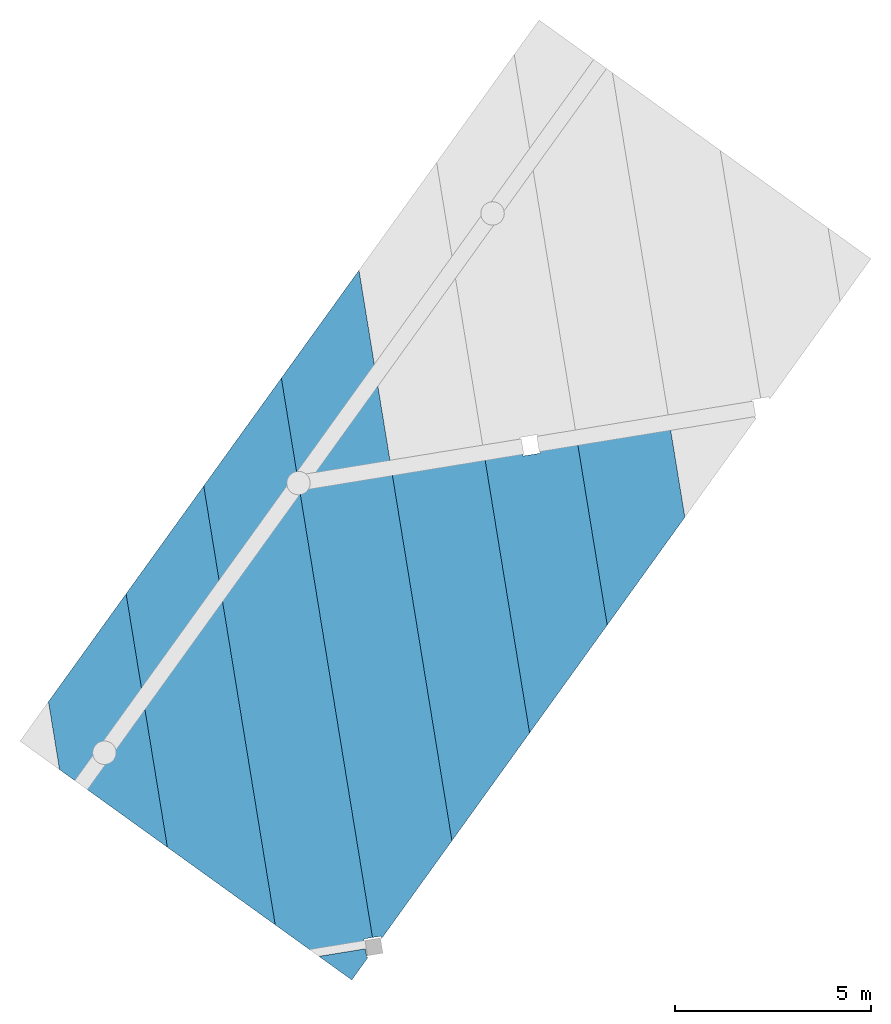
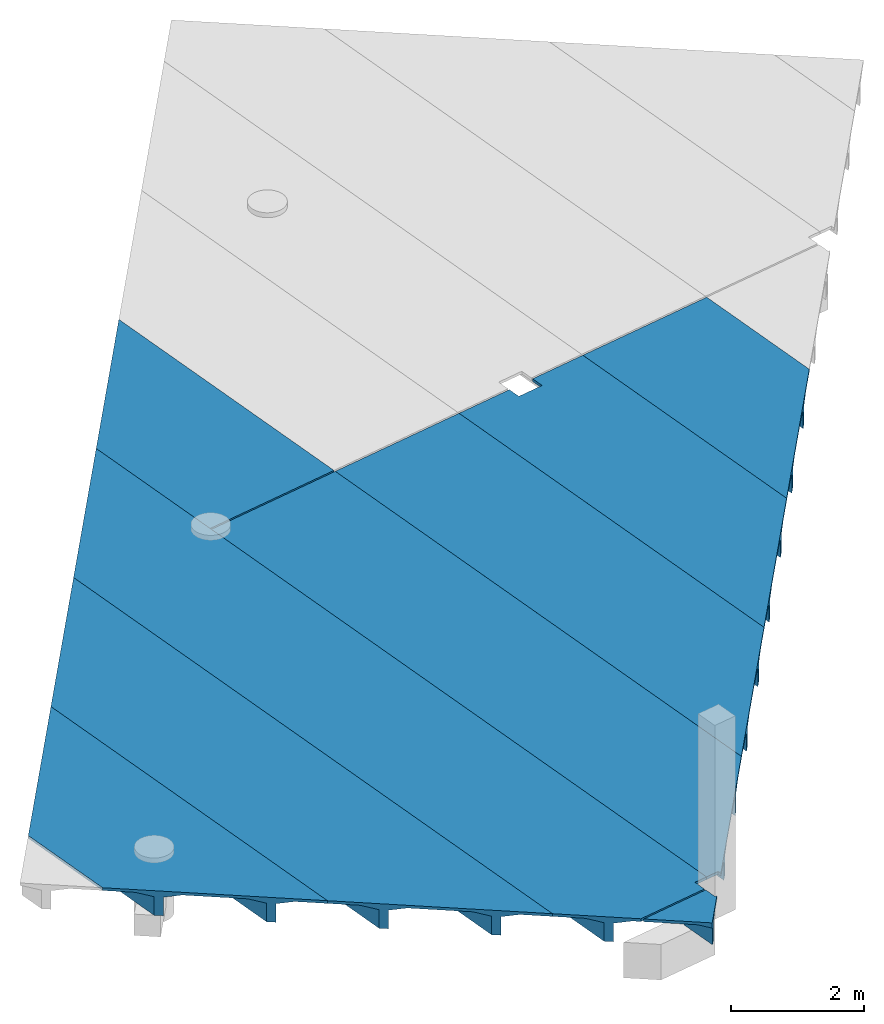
# One storey, part 2 of 3: 9 beams.
"""IFC2X3 building model written with IfcOpenShell, lengths in millimetres."""

from ifc_helpers import new_model, entity, si_unit, converted_unit, derived_unit, direction, frame, origin, origin_with_axes, place, context, subcontext, project, spatial, faceted_brep, type_object, element, save


model = new_model("IFC2X3")

# Units and contexts
model_context = context("Model", 3, precision=0.01, world=origin(), true_north=direction((6.12323399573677e-17, 1.0)))
plan_context = context("Plan", 3, precision=1e-05, world=origin_with_axes())
body_context = subcontext(model_context, "Body", "Model", "MODEL_VIEW")
ifc_project = project(units=[converted_unit("PLANEANGLEUNIT", "DEGREE", entity("IfcPositiveLengthMeasure", 0.0174532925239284), si_unit("PLANEANGLEUNIT", "RADIAN"), dimensions=[0, 0, 0, 0, 0, 0, 0]), si_unit("AREAUNIT", "SQUARE_METRE"), si_unit("LENGTHUNIT", "METRE", prefix="MILLI"), si_unit("MASSUNIT", "GRAM", prefix="KILO"), si_unit("POWERUNIT", "WATT"), si_unit("PRESSUREUNIT", "PASCAL", prefix="KILO"), si_unit("FORCEUNIT", "NEWTON", prefix="KILO"), si_unit("ELECTRICVOLTAGEUNIT", "VOLT"), si_unit("ELECTRICCURRENTUNIT", "AMPERE"), si_unit("THERMODYNAMICTEMPERATUREUNIT", "DEGREE_CELSIUS"), si_unit("TIMEUNIT", "SECOND"), si_unit("VOLUMEUNIT", "CUBIC_METRE"), derived_unit("LINEARVELOCITYUNIT", [(si_unit("LENGTHUNIT", "METRE"), 1), (si_unit("TIMEUNIT", "SECOND"), -1)]), derived_unit("VOLUMETRICFLOWRATEUNIT", [(si_unit("VOLUMEUNIT", "CUBIC_METRE"), 1), (si_unit("TIMEUNIT", "SECOND"), -1)]), derived_unit("THERMALTRANSMITTANCEUNIT", [(si_unit("POWERUNIT", "WATT"), 1), (si_unit("THERMODYNAMICTEMPERATUREUNIT", "KELVIN"), -1), (si_unit("AREAUNIT", "SQUARE_METRE"), -1)]), derived_unit("SOUNDPRESSUREUNIT", [(si_unit("PRESSUREUNIT", "PASCAL"), 1)])], contexts=[model_context, plan_context])

# Site, building, storey
site_placement = place(None, frame((5.09380697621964e-08, 5.80416781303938e-08, 0.0), z_axis=(0.0, 0.0, 1.0), x_axis=(-0.160806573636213, 0.986985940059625, 0.0)))
site = spatial("IfcSite", under=ifc_project, at=site_placement, Name="Default", CompositionType="ELEMENT")
building_placement = place(site_placement, frame((0.0, 0.0, 0.0), z_axis=(0.0, 0.0, 1.0), x_axis=(1.0, -2.77555756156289e-17, 0.0)))
building = spatial("IfcBuilding", under=site, at=building_placement, CompositionType="ELEMENT")
storey_placement = place(building_placement, frame((0.0, 0.0, 51360.0000000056), z_axis=(0.0, 0.0, 1.0), x_axis=(1.0, -2.77555756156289e-17, 0.0)))
storey = spatial("IfcBuildingStorey", under=building, at=storey_placement, Name="H01-Nivå D+0,36", CompositionType="ELEMENT", Elevation=51360.0000000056)

# Beams
beam_type = type_object("IfcBeamType", Name="DT450*2400-100-50-1200-0-200-0.3", PredefinedType="NOTDEFINED")
beam_1_placement = place(storey_placement, frame((1004653.34348859, -344780.275321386, 3529.99999999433), z_axis=(0.0, 0.0, 1.0), x_axis=(1.0, -2.77555756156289e-17, 0.0)))
element("IfcBeam", 1, at=beam_1_placement, inside=storey, type_object=beam_type, Name="DT", ObjectType="DT450*2400-100-50-1200-0-200-0.3", context=body_context, shape_type="Brep", body=[
    faceted_brep([(5102.32730285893, 0.0262667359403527, 450.0), (5102.32730285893, 0.0262667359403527, 400.0), (0.0123552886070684, 0.0, 400.0), (0.0123552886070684, 0.0, 450.0), (4752.33055990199, 350.024464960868, 400.0), (0.0105534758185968, 350.0, 400.0), (4552.33158949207, 550.023435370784, 340.0), (0.00952386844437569, 550.0, 340.0), (4552.33013426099, 550.023435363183, 0.0), (0.00952386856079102, 550.0, 0.0), (4452.332104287, 650.022920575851, 0.0), (0.00900906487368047, 650.0, 0.0), (4452.33064906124, 650.02292056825, 340.0), (0.00900906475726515, 650.0, 340.0), (4252.33313387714, 850.021890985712, 400.0), (0.00797945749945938, 850.0, 400.0), (3552.3367374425, 1550.01828742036, 400.0), (0.00437583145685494, 1550.0, 400.0), (3352.33776703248, 1750.01725783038, 340.0), (0.00334622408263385, 1750.0, 340.0), (3352.33631186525, 1750.01725782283, 0.0), (0.00334622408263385, 1750.0, 0.0), (3252.33828182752, 1850.01674303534, 0.0), (0.00283142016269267, 1850.0, 0.0), (3252.33682666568, 1850.01674302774, 340.0), (0.00283142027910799, 1850.0, 340.0), (3052.33931141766, 2050.01571344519, 400.0), (0.0018018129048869, 2050.0, 400.0), (2702.34111320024, 2400.01391166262, 400.0), (0.0, 2400.0, 400.0), (2702.33965806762, 2400.01391165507, 450.0), (0.0, 2400.0, 450.0), (2702.34111320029, 2400.01391166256, 450.0), (3252.33828182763, 1850.01674303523, 340.0), (3352.33776703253, 1750.01725783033, 0.0), (4452.33210428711, 650.022920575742, 340.0), (4552.33158949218, 550.023435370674, 0.0), (5102.32875811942, 0.026266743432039, 400.0), (5102.32875811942, 0.026266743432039, 450.0)], [[[0, 1, 2, 3]], [[1, 4, 5, 2]], [[4, 6, 7, 5]], [[6, 8, 9, 7]], [[8, 10, 11, 9]], [[10, 12, 13, 11]], [[12, 14, 15, 13]], [[14, 16, 17, 15]], [[16, 18, 19, 17]], [[18, 20, 21, 19]], [[20, 22, 23, 21]], [[22, 24, 25, 23]], [[24, 26, 27, 25]], [[26, 28, 29, 27]], [[28, 30, 31, 29]], [[30, 0, 3, 31]], [[2, 5, 7, 9, 11, 13, 15, 17, 19, 21, 23, 25, 27, 29, 31, 3]], [[32, 28, 26, 33, 22, 34, 18, 16, 14, 35, 10, 36, 6, 4, 37, 38]]], orient=[[False], [False], [False], [False], [False], [False], [False], [False], [False], [False], [False], [False], [False], [False], [False], [False], [False], [False]]),
])
beam_2_placement = place(storey_placement, frame((992653.322275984, -339980.328350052, 3529.99999999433), z_axis=(0.0, 0.0, 1.0), x_axis=(1.0, -2.77555756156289e-17, 0.0)))
element("IfcBeam", 2, at=beam_2_placement, inside=storey, type_object=beam_type, Name="DT", ObjectType="DT450*2400-100-50-1200-0-200-0.3", context=body_context, shape_type="Brep", body=[
    faceted_brep([(942.550068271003, 0.00485218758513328, 400.0), (942.550068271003, 0.00485218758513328, 450.0), (12302.3644785, 0.063332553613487, 450.0), (12302.3644785, 0.063332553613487, 400.0), (1292.49193433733, 350.006653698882, 400.0), (11952.367735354, 350.061530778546, 400.0), (1492.49296394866, 550.007683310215, 340.0), (11752.3687649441, 550.060501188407, 340.0), (1492.54723686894, 550.007683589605, 0.0), (11752.367309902, 550.060501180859, 0.0), (1592.49347875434, 650.008198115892, 0.0), (11652.3692797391, 650.059986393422, 0.0), (1592.54672206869, 650.008198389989, 340.0), (11652.3678247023, 650.059986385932, 340.0), (1792.49450836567, 850.009227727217, 400.0), (11452.3703093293, 850.058956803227, 400.0), (2492.4981120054, 1550.01283136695, 400.0), (10752.3739128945, 1550.05535323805, 400.0), (2692.49914161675, 1750.0138609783, 340.0), (10552.3749424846, 1750.05432364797, 340.0), (2692.54105926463, 1750.0138611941, 0.0), (10552.3734875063, 1750.05432364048, 0.0), (2792.49965642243, 1850.01437578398, 0.0), (10452.3754572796, 1850.05380885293, 0.0), (2792.5405444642, 1850.01437599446, 340.0), (10452.3740023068, 1850.05380884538, 340.0), (2992.50068603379, 2050.01540539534, 400.0), (10252.3764868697, 2050.05277926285, 400.0), (3342.50248785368, 2400.01720721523, 400.0), (9902.3782886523, 2400.05097748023, 400.0), (3342.53771306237, 2400.01720739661, 450.0), (9902.37683370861, 2400.05097747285, 450.0), (9902.37828865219, 2400.05097748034, 450.0), (10452.3754572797, 1850.05380885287, 340.0), (10552.3749424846, 1750.05432364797, 0.0), (11652.3692797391, 650.059986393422, 340.0), (11752.3687649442, 550.06050118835, 0.0), (12302.3659335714, 0.0633325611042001, 400.0), (12302.3659335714, 0.0633325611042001, 450.0), (1492.49296394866, 550.007683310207, 0.0), (1592.49347875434, 650.008198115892, 340.0), (2692.49914161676, 1750.0138609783, 0.0), (2792.49965642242, 1850.01437578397, 340.0), (3342.50248785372, 2400.01720721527, 450.0), (942.490132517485, 0.0048518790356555, 450.0), (942.490132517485, 0.0048518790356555, 400.0)], [[[0, 1, 2, 3]], [[4, 0, 3, 5]], [[6, 4, 5, 7]], [[8, 6, 7, 9]], [[10, 8, 9, 11]], [[12, 10, 11, 13]], [[14, 12, 13, 15]], [[16, 14, 15, 17]], [[18, 16, 17, 19]], [[20, 18, 19, 21]], [[22, 20, 21, 23]], [[24, 22, 23, 25]], [[26, 24, 25, 27]], [[28, 26, 27, 29]], [[30, 28, 29, 31]], [[1, 30, 31, 2]], [[32, 29, 27, 33, 23, 34, 19, 17, 15, 35, 11, 36, 7, 5, 37, 38]], [[4, 6, 39, 10, 40, 14, 16, 18, 41, 22, 42, 26, 28, 43, 44, 45]]], orient=[[False], [False], [False], [False], [False], [False], [False], [False], [False], [False], [False], [False], [False], [False], [False], [False], [False], [False]]),
])
beam_3_placement = place(storey_placement, frame((992653.332881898, -342380.327191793, 3529.99999999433), z_axis=(0.0, 0.0, 1.0), x_axis=(1.0, -2.77555756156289e-17, 0.0)))
element("IfcBeam", 3, at=beam_3_placement, inside=storey, type_object=beam_type, Name="DT", ObjectType="DT450*2400-100-50-1200-0-200-0.3", context=body_context, shape_type="Brep", body=[
    faceted_brep([(225.011272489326, 225.000014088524, 400.0), (0.011196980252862, 224.99885579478, 400.0), (0.011196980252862, 224.99885579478, 450.0), (225.011272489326, 225.000014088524, 450.0), (225.012430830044, 0.0, 450.0), (225.012430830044, 0.0, 400.0), (14352.3447960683, 350.072727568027, 400.0), (14152.3458039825, 550.071697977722, 340.0), (0.00952386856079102, 549.998841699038, 340.0), (0.0105534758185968, 349.998841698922, 400.0), (14702.3429726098, 0.074529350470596, 400.0), (14152.3443488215, 550.071697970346, 0.0), (0.00952386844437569, 549.998841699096, 0.0), (14052.3463187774, 650.071183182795, 0.0), (0.00900906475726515, 649.998841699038, 0.0), (14052.3448636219, 650.071183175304, 340.0), (0.00900906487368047, 649.998841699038, 340.0), (13852.3473483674, 850.07015359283, 400.0), (0.00797945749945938, 849.998841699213, 400.0), (92.4751507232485, 1549.99931773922, 400.0), (0.00485187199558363, 1457.52854284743, 400.0), (13152.3509519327, 1550.06655002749, 400.0), (292.476180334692, 1750.00034735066, 340.0), (12952.3519815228, 1750.06552043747, 340.0), (292.542808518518, 1750.00034769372, 0.0), (12952.3505264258, 1750.06552043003, 0.0), (392.476695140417, 1850.00086215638, 0.0), (12852.3524963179, 1850.06500564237, 0.0), (392.542293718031, 1850.00086249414, 340.0), (12852.3510412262, 1850.06500563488, 340.0), (592.477724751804, 2050.00189176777, 400.0), (12652.3535259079, 2050.06397605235, 400.0), (942.479526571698, 2400.00369358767, 400.0), (12302.3553276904, 2400.06217426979, 400.0), (942.539462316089, 2400.00369389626, 450.0), (12302.3538726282, 2400.06217426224, 450.0), (14702.4175019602, 0.0745297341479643, 450.0), (0.00485183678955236, 1457.53536399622, 450.0), (14702.3429726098, 0.074529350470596, 450.0), (12302.3553276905, 2400.06217426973, 450.0), (12852.3524963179, 1850.06500564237, 340.0), (12952.3519815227, 1750.06552043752, 0.0), (14052.3463187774, 650.071183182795, 340.0), (14152.3458039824, 550.071697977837, 0.0), (14352.3447743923, 350.072727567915, 400.0), (292.476180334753, 1750.00034735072, 0.0), (392.476695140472, 1850.00086215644, 340.0), (942.479526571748, 2400.00369358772, 450.0), (0.00485186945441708, 1457.52901888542, 450.0), (0.00485186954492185, 1457.52901888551, 400.0)], [[[0, 1, 2, 3]], [[0, 3, 4, 5]], [[6, 7, 8, 9]], [[10, 6, 9, 1, 0, 5]], [[7, 11, 12, 8]], [[11, 13, 14, 12]], [[13, 15, 16, 14]], [[15, 17, 18, 16]], [[19, 20, 18, 17, 21]], [[22, 19, 21, 23]], [[24, 22, 23, 25]], [[26, 24, 25, 27]], [[28, 26, 27, 29]], [[30, 28, 29, 31]], [[32, 30, 31, 33]], [[34, 32, 33, 35]], [[36, 10, 5, 4]], [[20, 37, 2, 1, 9, 8, 12, 14, 16, 18]], [[37, 34, 35, 36, 4, 3, 2]], [[10, 38, 39, 33, 31, 40, 27, 41, 23, 21, 17, 42, 13, 43, 7, 44]], [[22, 45, 26, 46, 30, 32, 47, 48, 49, 19]]], orient=[[False], [False], [False], [False], [False], [False], [False], [False], [False], [False], [False], [False], [False], [False], [False], [False], [False], [False], [False], [False], [False]]),
])
beam_4_placement = place(storey_placement, frame((992653.311670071, -337580.328350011, 3529.99999999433), z_axis=(0.0, 0.0, 1.0), x_axis=(1.0, -2.77555756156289e-17, 0.0)))
element("IfcBeam", 4, at=beam_4_placement, inside=storey, type_object=beam_type, Name="DT", ObjectType="DT450*2400-100-50-1200-0-200-0.3", context=body_context, shape_type="Brep", body=[
    faceted_brep([(3692.51489561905, 350.019009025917, 400.0), (3342.5143043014, 0.0172072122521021, 400.0), (9902.38894453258, 0.0509774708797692, 400.0), (9552.39069631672, 350.049175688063, 400.0), (3892.51592523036, 550.020038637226, 340.0), (9352.39172590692, 550.048146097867, 340.0), (3892.54548761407, 550.020038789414, 0.0), (9352.39027098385, 550.048146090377, 0.0), (3992.51644003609, 650.020553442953, 0.0), (9252.39224070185, 650.047631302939, 0.0), (3992.54497281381, 650.02055358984, 340.0), (9252.39078578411, 650.047631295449, 340.0), (4192.51746964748, 850.021583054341, 400.0), (9052.39327029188, 850.046601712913, 400.0), (8352.39687385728, 1550.04299814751, 400.0), (4892.52107328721, 1550.02518669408, 400.0), (5092.52210289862, 1750.02621630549, 340.0), (8152.3979034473, 1750.04196855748, 340.0), (5092.53931000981, 1750.02621639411, 0.0), (8152.39644858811, 1750.04196855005, 0.0), (5192.52261770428, 1850.02673111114, 0.0), (8052.3984182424, 1850.04145376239, 0.0), (5192.53879520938, 1850.02673119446, 340.0), (8052.39696338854, 1850.04145375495, 340.0), (5392.52364731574, 2050.0277607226, 400.0), (7852.39944783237, 2050.04042417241, 400.0), (5742.52544913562, 2400.02956254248, 400.0), (7502.4012496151, 2400.03862238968, 400.0), (5742.53596380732, 2400.02956259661, 450.0), (7502.3997947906, 2400.0386223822, 450.0), (3342.54831901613, 0.0172073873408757, 450.0), (9902.3874395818, 0.0509774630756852, 450.0), (9902.38889453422, 0.0509774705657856, 450.0), (7502.4012496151, 2400.03862238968, 450.0), (8052.39841824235, 1850.04145376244, 340.0), (8152.39790344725, 1750.04196855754, 0.0), (9252.39224070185, 650.047631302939, 340.0), (9352.39172590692, 550.048146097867, 0.0), (9902.38889453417, 0.0509774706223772, 400.0), (3892.51592523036, 550.020038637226, 0.0), (3992.51644003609, 650.020553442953, 340.0), (5092.52210289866, 1750.02621630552, 0.0), (5192.52261770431, 1850.02673111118, 340.0), (5742.52544913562, 2400.02956254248, 450.0), (3342.51309379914, 0.0172072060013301, 450.0), (3342.51309379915, 0.0172072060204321, 400.0)], [[[0, 1, 2, 3]], [[4, 0, 3, 5]], [[6, 4, 5, 7]], [[8, 6, 7, 9]], [[10, 8, 9, 11]], [[12, 10, 11, 13]], [[13, 14, 15, 12]], [[16, 15, 14, 17]], [[18, 16, 17, 19]], [[20, 18, 19, 21]], [[22, 20, 21, 23]], [[24, 22, 23, 25]], [[26, 24, 25, 27]], [[28, 26, 27, 29]], [[1, 30, 31, 2]], [[29, 31, 30, 28]], [[32, 33, 27, 25, 34, 21, 35, 17, 14, 13, 36, 9, 37, 5, 3, 38]], [[4, 39, 8, 40, 12, 15, 16, 41, 20, 42, 24, 26, 43, 44, 45, 0]]], orient=[[False], [False], [False], [False], [False], [False], [False], [False], [False], [False], [False], [False], [False], [False], [False], [False], [False], [False]]),
])
beam_5_placement = place(storey_placement, frame((992653.344646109, -344780.328350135, 3529.99999999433), z_axis=(0.0, 0.0, 1.0), x_axis=(1.0, -2.77555756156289e-17, 0.0)))
element("IfcBeam", 5, at=beam_5_placement, inside=storey, type_object=beam_type, Name="DT", ObjectType="DT450*2400-100-50-1200-0-200-0.3", context=body_context, shape_type="Brep", body=[
    faceted_brep([(161.192304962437, 2175.00084399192, 450.0), (161.192304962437, 2175.00084399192, 400.0), (224.999938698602, 2175.00117247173, 400.0), (224.999938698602, 2175.00117247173, 450.0), (224.998786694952, 2400.00115830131, 400.0), (224.998786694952, 2400.00115830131, 450.0), (1986.18179534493, 350.010224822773, 400.0), (2336.18174268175, 0.0120266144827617, 400.0), (11970.0099292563, 0.061621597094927, 400.0), (11970.0081274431, 350.061621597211, 400.0), (1786.18295644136, 550.009195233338, 340.0), (11970.0070978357, 550.061621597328, 340.0), (1786.1306975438, 550.009194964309, 0.0), (11970.0070978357, 550.061621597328, 0.0), (1686.18356618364, 650.008680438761, 0.0), (11970.0065830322, 650.061621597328, 0.0), (1686.1306975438, 650.008680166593, 340.0), (11970.0065830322, 650.061621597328, 340.0), (1486.18452895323, 850.007650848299, 400.0), (11970.0055534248, 850.061621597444, 400.0), (786.188035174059, 1550.00404728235, 400.0), (11970.0019497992, 1550.06162159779, 400.0), (586.189246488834, 1750.00301769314, 340.0), (11970.0009201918, 1750.06162159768, 340.0), (586.130697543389, 1750.00301739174, 0.0), (11970.0009201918, 1750.06162159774, 0.0), (486.189795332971, 1850.00250289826, 0.0), (11970.0004053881, 1850.06162159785, 0.0), (486.130697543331, 1850.00250259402, 340.0), (11970.0004053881, 1850.06162159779, 340.0), (286.190819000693, 2050.00147330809, 400.0), (11969.9993757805, 2050.06162159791, 400.0), (11969.997573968, 2400.06162159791, 400.0), (11970.0099292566, 0.061621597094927, 450.0), (11969.997573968, 2400.06162159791, 450.0), (2336.13069754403, 0.0120263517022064, 450.0), (2336.18029253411, 0.012026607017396, 450.0), (2336.18029253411, 0.0120266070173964, 400.0), (1986.18209431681, 350.010224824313, 400.0), (1786.18312390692, 550.0091952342, 340.0), (1786.18312390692, 550.0091952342, 0.0), (1686.18363870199, 650.008680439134, 0.0), (1686.18363870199, 650.008680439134, 340.0), (1486.18466829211, 850.007650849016, 400.0), (786.188271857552, 1550.00404728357, 400.0), (586.189301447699, 1750.00301769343, 340.0), (586.189301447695, 1750.00301769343, 0.0), (486.189816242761, 1850.00250289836, 0.0), (486.189816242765, 1850.00250289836, 340.0), (286.1908458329, 2050.00147330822, 400.0), (161.19147515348, 2175.00084398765, 400.0), (161.19147515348, 2175.00084398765, 450.0)], [[[0, 1, 2, 3]], [[2, 4, 5, 3]], [[6, 7, 8, 9]], [[10, 6, 9, 11]], [[12, 10, 11, 13]], [[14, 12, 13, 15]], [[16, 14, 15, 17]], [[18, 16, 17, 19]], [[20, 18, 19, 21]], [[22, 20, 21, 23]], [[24, 22, 23, 25]], [[26, 24, 25, 27]], [[28, 26, 27, 29]], [[30, 28, 29, 31]], [[1, 30, 31, 32, 4, 2]], [[33, 34, 32, 31, 29, 27, 25, 23, 21, 19, 17, 15, 13, 11, 9, 8]], [[7, 35, 33, 8]], [[4, 32, 34, 5]], [[35, 0, 3, 5, 34, 33]], [[36, 37, 38, 39, 40, 41, 42, 43, 44, 45, 46, 47, 48, 49, 50, 51]]], orient=[[False], [False], [False], [False], [False], [False], [False], [False], [False], [False], [False], [False], [False], [False], [False], [False], [False], [False], [False], [False]]),
])
beam_6_placement = place(storey_placement, frame((0.0, 0.0, 0.0), z_axis=(0.0, 0.0, 1.0), x_axis=(1.0, -2.77555756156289e-17, 0.0)))
element("IfcBeam", 6, at=beam_6_placement, inside=storey, type_object=beam_type, Name="DT", ObjectType="DT450*2400-100-50-1200-0-200-0.3", context=body_context, shape_type="Brep", body=[
    faceted_brep([(997389.520050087, -347180.303968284, 3979.99999999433), (994989.522527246, -344780.316323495, 3979.99999999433), (1004623.35282599, -344780.266728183, 3979.99999999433), (1004623.36518128, -347180.266728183, 3979.99999999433), (997389.536965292, -347180.303968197, 3929.99999999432), (1004623.36518128, -347180.266728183, 3929.99999999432), (997039.513725, -346830.30577012, 3929.99999999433), (1004623.36337947, -346830.266728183, 3929.99999999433), (996839.51502235, -346630.306799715, 3869.99999999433), (1004623.36234986, -346630.266728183, 3869.99999999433), (996839.536965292, -346630.306799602, 3529.99999999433), (1004623.36234986, -346630.266728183, 3529.99999999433), (996739.515753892, -346530.307314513, 3529.99999999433), (1004623.36183505, -346530.266728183, 3529.99999999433), (996739.536965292, -346530.307314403, 3869.99999999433), (1004623.36183505, -346530.266728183, 3869.99999999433), (996539.516594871, -346330.30834411, 3929.99999999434), (1004623.36080545, -346330.266728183, 3929.99999999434), (995839.519603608, -345630.311947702, 3929.99999999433), (1004623.35720182, -345630.266728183, 3929.99999999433), (995639.521312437, -345430.312977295, 3869.99999999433), (1004623.35617221, -345430.266728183, 3869.99999999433), (995639.536965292, -345430.312977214, 3529.99999999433), (1004623.35617221, -345430.266728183, 3529.99999999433), (995539.52198308, -345330.313492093, 3529.99999999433), (1004623.35565741, -345330.266728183, 3529.99999999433), (995539.536965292, -345330.313492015, 3869.99999999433), (1004623.35565741, -345330.266728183, 3869.99999999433), (995339.522884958, -345130.31452169, 3929.99999999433), (1004623.3546278, -345130.266728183, 3929.99999999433), (994989.524586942, -344780.316323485, 3929.99999999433), (1004623.35282599, -344780.266728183, 3929.99999999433), (997389.512583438, -347180.303968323, 3929.99999999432), (997039.514385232, -346830.305770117, 3929.99999999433), (996839.515414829, -346630.306799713, 3869.99999999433), (996839.515414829, -346630.306799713, 3529.99999999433), (996739.515929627, -346530.307314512, 3529.99999999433), (996739.515929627, -346530.307314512, 3869.99999999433), (996539.516959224, -346330.308344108, 3929.99999999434), (995839.520562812, -345630.311947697, 3929.99999999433), (995639.521592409, -345430.312977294, 3869.99999999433), (995639.521592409, -345430.312977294, 3529.99999999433), (995539.522107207, -345330.313492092, 3529.99999999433), (995539.522107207, -345330.313492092, 3869.99999999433), (995339.523136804, -345130.314521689, 3929.99999999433), (994989.524938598, -344780.316323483, 3929.99999999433), (994989.524938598, -344780.316323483, 3979.99999999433), (997389.512583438, -347180.303968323, 3979.99999999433)], [[[0, 1, 2, 3]], [[4, 0, 3, 5]], [[6, 4, 5, 7]], [[8, 6, 7, 9]], [[10, 8, 9, 11]], [[12, 10, 11, 13]], [[14, 12, 13, 15]], [[16, 14, 15, 17]], [[18, 16, 17, 19]], [[20, 18, 19, 21]], [[22, 20, 21, 23]], [[24, 22, 23, 25]], [[26, 24, 25, 27]], [[28, 26, 27, 29]], [[30, 28, 29, 31]], [[1, 30, 31, 2]], [[3, 2, 31, 29, 27, 25, 23, 21, 19, 17, 15, 13, 11, 9, 7, 5]], [[32, 33, 34, 35, 36, 37, 38, 39, 40, 41, 42, 43, 44, 45, 46, 47]]], orient=[[False], [False], [False], [False], [False], [False], [False], [False], [False], [False], [False], [False], [False], [False], [False], [False], [False], [False]]),
])
beam_7_placement = place(storey_placement, frame((992653.364699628, -349580.328350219, 3529.99999999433), z_axis=(0.0, 0.0, 1.0), x_axis=(1.0, -2.77555756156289e-17, 0.0)))
element("IfcBeam", 7, at=beam_7_placement, inside=storey, type_object=beam_type, Name="DT", ObjectType="DT450*2400-100-50-1200-0-200-0.3", context=body_context, shape_type="Brep", body=[
    faceted_brep([(6786.13630920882, 350.034935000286, 400.0), (7136.13625654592, 0.0367367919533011, 400.0), (11970.0110875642, 0.06162159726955, 400.0), (11970.009285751, 350.061621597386, 400.0), (6586.13774279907, 550.033905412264, 340.0), (11970.0082561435, 550.061621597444, 340.0), (6586.11064410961, 550.033905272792, 0.0), (11970.0082561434, 550.061621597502, 0.0), (6486.13859613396, 650.033390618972, 0.0), (11970.00774134, 650.061621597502, 0.0), (6486.11064410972, 650.033390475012, 340.0), (11970.0077413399, 650.061621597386, 340.0), (6286.13931531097, 850.032361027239, 400.0), (11970.0067117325, 850.061621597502, 400.0), (5586.14182651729, 1550.02875745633, 400.0), (11970.0060682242, 975.06237335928, 400.0), (11745.0073517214, 975.061215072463, 400.0), (11745.0050350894, 1425.0612150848, 400.0), (11970.0037516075, 1425.06237337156, 400.0), (11970.0031081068, 1550.06162159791, 400.0), (5386.14403284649, 1750.02772787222, 340.0), (11970.0020784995, 1750.06162159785, 340.0), (5386.11064410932, 1750.02772770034, 0.0), (11970.0020784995, 1750.06162159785, 0.0), (5286.14482528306, 1850.02721307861, 0.0), (11970.0015636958, 1850.06162159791, 0.0), (5286.11064410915, 1850.02721290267, 340.0), (11970.0015636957, 1850.06162159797, 340.0), (5086.1456053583, 2050.02618348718, 400.0), (11970.0005340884, 2050.06162159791, 400.0), (4736.14717108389, 2400.02438170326, 400.0), (11969.9987322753, 2400.06162159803, 400.0), (4736.11064410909, 2400.02438151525, 450.0), (11969.9987322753, 2400.06162159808, 450.0), (11970.0037516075, 1425.06237337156, 450.0), (11745.0050350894, 1425.0612150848, 450.0), (11745.0073517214, 975.061215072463, 450.0), (11970.0073517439, 975.062373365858, 450.0), (11970.0110270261, 0.0616215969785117, 450.0), (7136.11060801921, 0.0367366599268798, 450.0), (6586.13836029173, 550.033905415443, 340.0), (6586.1383602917, 550.033905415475, 0.0), (6486.13887508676, 650.033390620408, 0.0), (6486.13887508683, 650.033390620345, 340.0), (6286.1399046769, 850.032361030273, 400.0), (5586.14350824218, 1550.02875746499, 400.0), (5386.14453783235, 1750.02772787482, 340.0), (5386.14453783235, 1750.02772787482, 0.0), (5286.14505262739, 1850.02721307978, 0.0), (5286.14505262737, 1850.0272130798, 340.0), (5086.14608221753, 2050.02618348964, 400.0), (4736.14788400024, 2400.02438170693, 400.0), (4736.14788400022, 2400.02438170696, 450.0), (7136.13552891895, 0.0367367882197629, 450.0), (7136.13552891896, 0.0367367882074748, 400.0), (6786.13733070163, 350.034935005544, 400.0)], [[[0, 1, 2, 3]], [[4, 0, 3, 5]], [[6, 4, 5, 7]], [[8, 6, 7, 9]], [[10, 8, 9, 11]], [[12, 10, 11, 13]], [[14, 12, 13, 15, 16, 17, 18, 19]], [[20, 14, 19, 21]], [[22, 20, 21, 23]], [[24, 22, 23, 25]], [[26, 24, 25, 27]], [[28, 26, 27, 29]], [[30, 28, 29, 31]], [[32, 30, 31, 33]], [[34, 33, 31, 29, 27, 25, 23, 21, 19, 18]], [[17, 35, 34, 18]], [[17, 16, 36, 35]], [[16, 15, 37, 36]], [[15, 13, 11, 9, 7, 5, 3, 2, 38, 37]], [[1, 39, 38, 2]], [[39, 32, 33, 34, 35, 36, 37, 38]], [[40, 41, 42, 43, 44, 45, 46, 47, 48, 49, 50, 51, 52, 53, 54, 55]]], orient=[[False], [False], [False], [False], [False], [False], [False], [False], [False], [False], [False], [False], [False], [False], [False], [False], [False], [False], [False], [False], [False], [False]]),
])
beam_8_placement = place(storey_placement, frame((0.0, 0.0, 0.0), z_axis=(0.0, 0.0, 1.0), x_axis=(1.0, -2.77555756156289e-17, 0.0)))
element("IfcBeam", 8, at=beam_8_placement, inside=storey, type_object=beam_type, Name="DT", ObjectType="DT450*2400-100-50-1200-0-200-0.3", context=body_context, shape_type="Brep", body=[
    faceted_brep([(1002189.49038541, -351980.279258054, 3979.99999999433), (999789.492862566, -349580.291613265, 3979.99999999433), (1004623.37403782, -349580.266728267, 3979.99999999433), (1004623.3863931, -351980.266728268, 3979.99999999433), (1002189.53696538, -351980.279257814, 3929.99999999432), (1004623.3863931, -351980.266728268, 3929.99999999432), (1001839.48829222, -351630.281059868, 3929.99999999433), (1004623.38459129, -351630.266728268, 3929.99999999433), (1001639.48986207, -351430.282089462, 3869.99999999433), (1004623.38356168, -351430.266728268, 3869.99999999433), (1001639.53696538, -351430.28208922, 3529.99999999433), (1004623.38356168, -351430.266728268, 3529.99999999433), (1001539.4908372, -351330.282604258, 3529.99999999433), (1004623.38304688, -351330.266728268, 3529.99999999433), (1001539.53696538, -351330.282604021, 3869.99999999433), (1004623.38304688, -351330.266728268, 3869.99999999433), (1001339.49143459, -351130.283633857, 3929.99999999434), (1004623.38201727, -351130.266728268, 3929.99999999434), (1000639.49344831, -350430.287237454, 3929.99999999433), (1004623.37841365, -350430.266728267, 3929.99999999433), (1000439.49615215, -350230.288267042, 3869.99999999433), (1004623.37738404, -350230.266728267, 3869.99999999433), (1000439.53696538, -350230.288266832, 3529.99999999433), (1004623.37738404, -350230.266728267, 3529.99999999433), (1000339.49706639, -350130.288781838, 3529.99999999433), (1004623.37686924, -350130.266728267, 3529.99999999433), (1000339.53696538, -350130.288781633, 3869.99999999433), (1004623.37686924, -350130.266728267, 3869.99999999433), (1000139.49772468, -349930.289811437, 3929.99999999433), (1004623.37583963, -349930.266728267, 3929.99999999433), (999789.499154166, -349580.291613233, 3929.99999999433), (1004623.37403782, -349580.266728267, 3929.99999999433), (1002189.48787318, -351980.279258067, 3929.99999999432), (1001839.48967498, -351630.281059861, 3929.99999999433), (1001639.49070457, -351430.282089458, 3869.99999999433), (1001639.49070457, -351430.282089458, 3529.99999999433), (1001539.49121937, -351330.282604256, 3529.99999999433), (1001539.49121937, -351330.282604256, 3869.99999999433), (1001339.49224897, -351130.283633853, 3929.99999999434), (1000639.49585256, -350430.287237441, 3929.99999999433), (1000439.49688215, -350230.288267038, 3869.99999999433), (1000439.49688215, -350230.288267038, 3529.99999999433), (1000339.49739695, -350130.288781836, 3529.99999999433), (1000339.49739695, -350130.288781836, 3869.99999999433), (1000139.49842655, -349930.289811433, 3929.99999999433), (999789.500228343, -349580.291613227, 3929.99999999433), (999789.500228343, -349580.291613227, 3979.99999999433), (1002189.48787318, -351980.279258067, 3979.99999999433)], [[[0, 1, 2, 3]], [[4, 0, 3, 5]], [[6, 4, 5, 7]], [[8, 6, 7, 9]], [[10, 8, 9, 11]], [[12, 10, 11, 13]], [[14, 12, 13, 15]], [[16, 14, 15, 17]], [[18, 16, 17, 19]], [[20, 18, 19, 21]], [[22, 20, 21, 23]], [[24, 22, 23, 25]], [[26, 24, 25, 27]], [[28, 26, 27, 29]], [[30, 28, 29, 31]], [[1, 30, 31, 2]], [[3, 2, 31, 29, 27, 25, 23, 21, 19, 17, 15, 13, 11, 9, 7, 5]], [[32, 33, 34, 35, 36, 37, 38, 39, 40, 41, 42, 43, 44, 45, 46, 47]]], orient=[[False], [False], [False], [False], [False], [False], [False], [False], [False], [False], [False], [False], [False], [False], [False], [False], [False], [False]]),
])
beam_9_placement = place(storey_placement, frame((980653.33288111, -342380.380220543, 3529.99999999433), z_axis=(0.0, 0.0, 1.0), x_axis=(1.0, -2.77555756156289e-17, 0.0)))
element("IfcBeam", 9, at=beam_9_placement, inside=storey, type_object=beam_type, Name="DT", ObjectType="DT450*2400-100-50-1200-0-200-0.3", context=body_context, shape_type="Brep", body=[
    faceted_brep([(11745.011434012, 191.244694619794, 400.0), (11745.011434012, 191.244694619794, 450.0), (11745.0112599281, 225.060056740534, 450.0), (11745.0112599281, 225.060056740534, 400.0), (11970.0112599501, 225.061215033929, 450.0), (11970.0099292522, 225.061215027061, 400.0), (11970.0037386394, 1427.58030308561, 400.0), (11392.4802952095, 850.057490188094, 400.0), (11970.0067117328, 850.060463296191, 400.0), (11239.3393797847, 696.91657476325, 354.057961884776), (11286.1990115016, 650.056943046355, 340.0), (11970.0077413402, 650.060463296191, 340.0), (11286.1954912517, 650.056943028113, 0.0), (11970.0077413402, 650.060463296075, 0.0), (11386.1984967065, 550.057457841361, 0.0), (11970.0082561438, 550.060463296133, 0.0), (11386.1954912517, 550.057457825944, 340.0), (11970.0082561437, 550.060463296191, 340.0), (11586.1974671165, 350.058487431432, 400.0), (11970.009285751, 350.060463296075, 400.0), (11970.0043335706, 1427.58845493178, 450.0), (11239.3393797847, 696.91657476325, 450.0), (11970.0037386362, 1427.58093361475, 400.0), (11970.0043336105, 1427.58152858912, 450.0), (11745.0114340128, 191.244520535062, 450.0), (11745.0114340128, 191.244520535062, 400.0), (11386.1984967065, 550.057457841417, 340.0), (11286.1990115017, 650.056943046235, 0.0)], [[[0, 1, 2, 3]], [[3, 2, 4, 5]], [[6, 7, 8]], [[7, 9, 10, 11, 8]], [[10, 12, 13, 11]], [[12, 14, 15, 13]], [[14, 16, 17, 15]], [[16, 18, 19, 17]], [[18, 0, 3, 5, 19]], [[20, 6, 8, 11, 13, 15, 17, 19, 5, 4]], [[1, 21, 20, 4, 2]], [[9, 7, 22, 23, 21]], [[21, 24, 25, 18, 26, 14, 27, 10, 9]]], orient=[[False], [False], [False], [False], [False], [False], [False], [False], [False], [False], [False], [False], [False]]),
])

save(model, "model.ifc")
